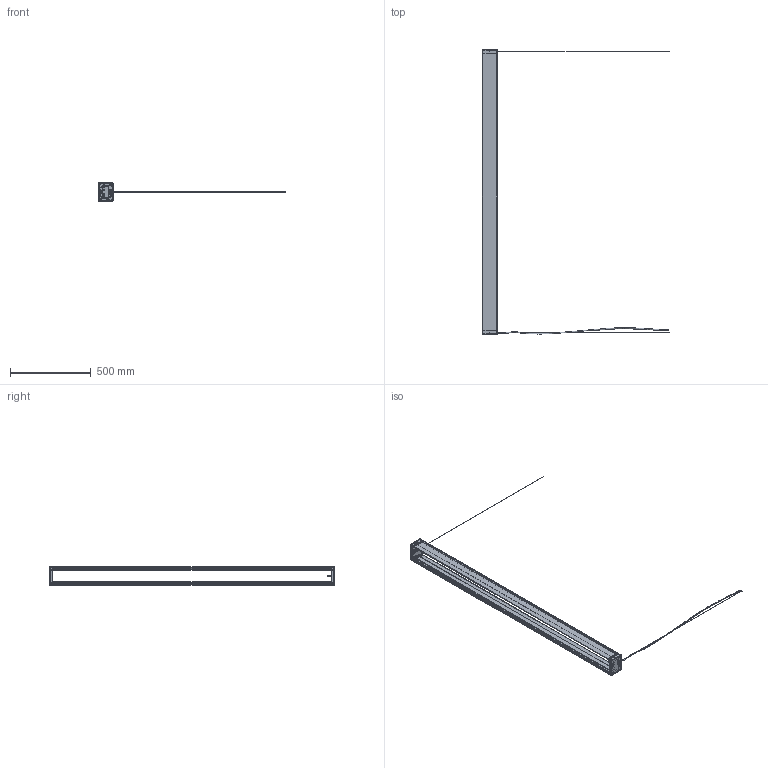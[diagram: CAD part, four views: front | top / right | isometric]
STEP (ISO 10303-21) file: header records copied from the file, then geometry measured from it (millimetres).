
FILE_DESCRIPTION (( 'STEP AP203' ), '1' );
FILE_NAME ('800TRULWW511_TRU SOSPESA UP-DOWN.STEP', '2016-09-15T15:31:49', ( '' ), ( '' ), 'SwSTEP 2.0', 'SolidWorks 2016', '' );
FILE_SCHEMA (( 'CONFIG_CONTROL_DESIGN' ));
Length unit declared in the file: millimetre
Products named in the file (11): 052TRU701400_Tappo TRU SOSPESA_052TRU701400; 052TRU700600_Testata TRU SOSPESA_052TRU700600_foro singolo; 010TRU700320; MORSETTO PA 35 2_POLI_1 polo; 051TRU700120; 093COM000003 - STRISCIA LED TRU; vite tc m3x16 croce; 800TRULWW511_TRU SOSPESA UP-DOWN; 082COM000388; 019COM000081; 052TRU700600_Testata TRU SOSPESA_052TRU700700_doppio foro
Assembly tree (22 placements, depth 2):
  800TRULWW511_TRU SOSPESA UP-DOWN
    051TRU700120  x2
    vite tc m3x16 croce  x8
    082COM000388
    019COM000081  x2
    052TRU700600_Testata TRU SOSPESA_052TRU700700_doppio foro
    052TRU701400_Tappo TRU SOSPESA_052TRU701400  x2
    052TRU700600_Testata TRU SOSPESA_052TRU700600_foro singolo
    010TRU700320  x2
    MORSETTO PA 35 2_POLI_1 polo
    093COM000003 - STRISCIA LED TRU  x2
Bounding box: 1155.15 x 1756.66 x 112.2 mm (x, y, z)
Volume: 1518156.9 mm3; surface area: 1919845.5 mm2
Topology: 22 solids, 22 shells, 9203 faces, 24304 edges, 15970 vertices
Faces by surface type: plane 7120, cylinder 994, bspline 791, torus 134, cone 84, sphere 80
Entity records: 221904 total; most frequent: CARTESIAN_POINT 79262, ORIENTED_EDGE 31100, DIRECTION 25699, EDGE_CURVE 15550, VECTOR 12171, LINE 12171, VERTEX_POINT 10185, AXIS2_PLACEMENT_3D 6764
